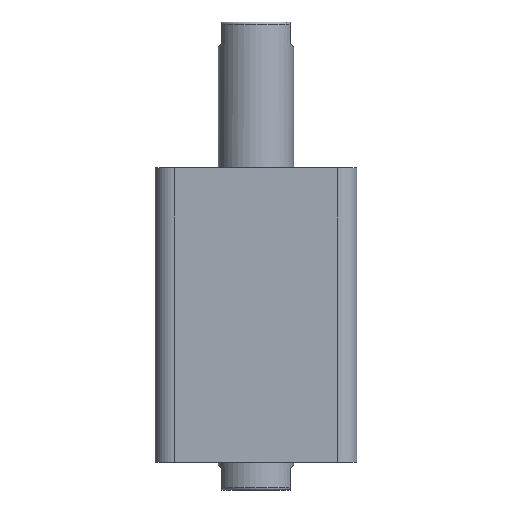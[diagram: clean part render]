
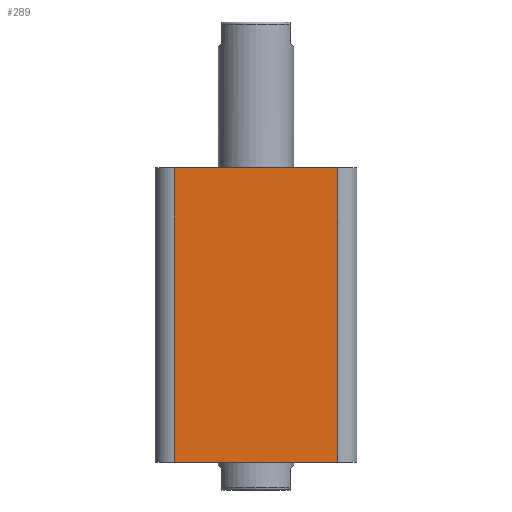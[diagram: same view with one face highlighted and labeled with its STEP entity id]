
A CAD part, front view. The second image highlights one B-rep face of the part: STEP entity #289.
In plain terms, the highlighted planar face has unit normal (0, -1, 0).
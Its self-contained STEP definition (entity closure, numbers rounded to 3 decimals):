
#289 = ADVANCED_FACE ( 'NONE', ( #2565 ), #467, .F. ) ;
#465 = CARTESIAN_POINT ( 'NONE',  ( -47., -47., 137. ) ) ;
#467 = PLANE ( 'NONE',  #3253 ) ;
#469 = DIRECTION ( 'NONE',  ( 0., 1., 0. ) ) ;
#470 = DIRECTION ( 'NONE',  ( 0., 0., 1. ) ) ;
#773 = CARTESIAN_POINT ( 'NONE',  ( -38., -47., 137. ) ) ;
#782 = CARTESIAN_POINT ( 'NONE',  ( 38., -47., 137. ) ) ;
#783 = CARTESIAN_POINT ( 'NONE',  ( 38., -47., 0. ) ) ;
#785 = CARTESIAN_POINT ( 'NONE',  ( -38., -47., 0. ) ) ;
#1140 = EDGE_LOOP ( 'NONE', ( #1374, #1363, #1357, #1356 ) ) ;
#1281 = VERTEX_POINT ( 'NONE', #773 ) ;
#1356 = ORIENTED_EDGE ( 'NONE', *, *, #3110, .T. ) ;
#1357 = ORIENTED_EDGE ( 'NONE', *, *, #3109, .T. ) ;
#1363 = ORIENTED_EDGE ( 'NONE', *, *, #3108, .T. ) ;
#1374 = ORIENTED_EDGE ( 'NONE', *, *, #3107, .F. ) ;
#1646 = VERTEX_POINT ( 'NONE', #783 ) ;
#1647 = VERTEX_POINT ( 'NONE', #785 ) ;
#1649 = VERTEX_POINT ( 'NONE', #782 ) ;
#1932 = CARTESIAN_POINT ( 'NONE',  ( -47., -47., 0. ) ) ;
#1942 = CARTESIAN_POINT ( 'NONE',  ( -47., -47., 137. ) ) ;
#1943 = DIRECTION ( 'NONE',  ( 1., 0., 0. ) ) ;
#1944 = CARTESIAN_POINT ( 'NONE',  ( -38., -47., 137. ) ) ;
#1945 = DIRECTION ( 'NONE',  ( 0., 0., -1. ) ) ;
#1946 = DIRECTION ( 'NONE',  ( 1., 0., 0. ) ) ;
#1947 = CARTESIAN_POINT ( 'NONE',  ( 38., -47., 137. ) ) ;
#1948 = DIRECTION ( 'NONE',  ( 0., 0., 1. ) ) ;
#2565 = FACE_OUTER_BOUND ( 'NONE', #1140, .T. ) ;
#2855 = LINE ( 'NONE', #1932, #2868 ) ;
#2861 = LINE ( 'NONE', #1942, #2864 ) ;
#2863 = LINE ( 'NONE', #1944, #2866 ) ;
#2864 = VECTOR ( 'NONE', #1943, 1000. ) ;
#2866 = VECTOR ( 'NONE', #1945, 1000. ) ;
#2867 = LINE ( 'NONE', #1947, #2870 ) ;
#2868 = VECTOR ( 'NONE', #1946, 1000. ) ;
#2870 = VECTOR ( 'NONE', #1948, 1000. ) ;
#3107 = EDGE_CURVE ( 'NONE', #1281, #1649, #2861, .T. ) ;
#3108 = EDGE_CURVE ( 'NONE', #1281, #1647, #2863, .T. ) ;
#3109 = EDGE_CURVE ( 'NONE', #1647, #1646, #2855, .T. ) ;
#3110 = EDGE_CURVE ( 'NONE', #1646, #1649, #2867, .T. ) ;
#3253 = AXIS2_PLACEMENT_3D ( 'NONE', #465, #469, #470 ) ;
